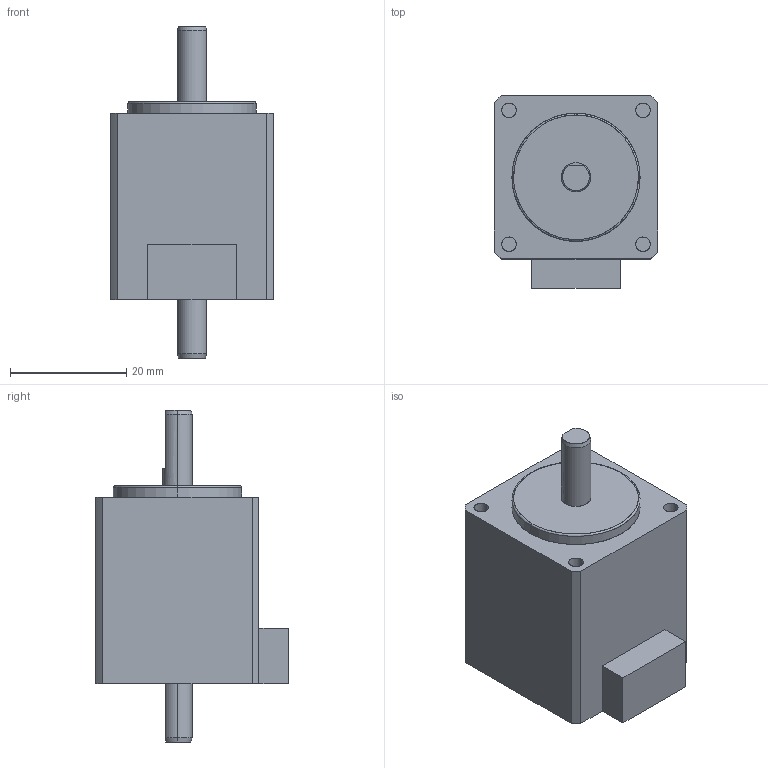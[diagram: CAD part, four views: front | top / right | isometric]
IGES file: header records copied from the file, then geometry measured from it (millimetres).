
Start section: SolidWorks IGES file using analytic representation for surfaces
Global section: file name: \\MCADserv\kari\7666\Plexmotion New 3D data\PMSB-U28DA1D_3D\PMSB-U28DA1D_3D.IGS; native system: SolidWorks 2014; preprocessor: SolidWorks 2014; author: user0016; date: 161115.114754; units: millimetre
Bounding box: 28 x 33 x 57 mm (x, y, z)
Surface area: 6690.4 mm2 (no closed solid volume)
Topology: 0 solids, 0 shells, 48 faces, 616 edges, 616 vertices
Faces by surface type: revolution 25, bspline 23
